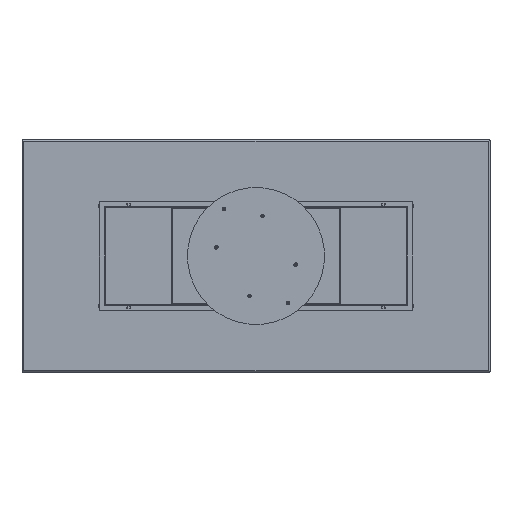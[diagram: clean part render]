
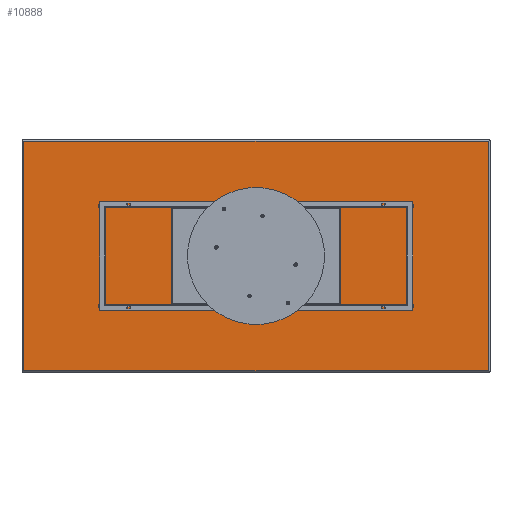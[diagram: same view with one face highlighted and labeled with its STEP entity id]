
A CAD part, front view. The second image highlights one B-rep face of the part: STEP entity #10888.
In plain terms, the highlighted planar face has unit normal (0, -1, 0).
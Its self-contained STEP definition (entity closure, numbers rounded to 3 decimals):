
#152 = VERTEX_POINT ( 'NONE', #15643 ) ;
#219 = CARTESIAN_POINT ( 'NONE',  ( 0., 0., 587. ) ) ;
#641 = CARTESIAN_POINT ( 'NONE',  ( 1187., 0., 0. ) ) ;
#890 = VECTOR ( 'NONE', #15709, 1000. ) ;
#1368 = FACE_OUTER_BOUND ( 'NONE', #14971, .T. ) ;
#2653 = LINE ( 'NONE', #641, #890 ) ;
#3420 = ORIENTED_EDGE ( 'NONE', *, *, #15647, .T. ) ;
#3804 = VECTOR ( 'NONE', #6762, 1000. ) ;
#4025 = DIRECTION ( 'NONE',  ( 0., 0., -1. ) ) ;
#4277 = VECTOR ( 'NONE', #19281, 1000. ) ;
#4541 = AXIS2_PLACEMENT_3D ( 'NONE', #13008, #19550, #6413 ) ;
#6149 = LINE ( 'NONE', #18767, #16858 ) ;
#6296 = PLANE ( 'NONE',  #4541 ) ;
#6413 = DIRECTION ( 'NONE',  ( 0., 0., 1. ) ) ;
#6762 = DIRECTION ( 'NONE',  ( -1., 0., 0. ) ) ;
#7121 = EDGE_CURVE ( 'NONE', #11334, #10711, #6149, .T. ) ;
#7661 = LINE ( 'NONE', #17484, #4277 ) ;
#7749 = EDGE_CURVE ( 'NONE', #11233, #11334, #8495, .T. ) ;
#8495 = LINE ( 'NONE', #219, #3804 ) ;
#10711 = VERTEX_POINT ( 'NONE', #10742 ) ;
#10742 = CARTESIAN_POINT ( 'NONE',  ( -1187., 0., -587. ) ) ;
#10888 = ADVANCED_FACE ( 'NONE', ( #1368 ), #6296, .F. ) ;
#10920 = CARTESIAN_POINT ( 'NONE',  ( 1187., 0., 587. ) ) ;
#11233 = VERTEX_POINT ( 'NONE', #10920 ) ;
#11334 = VERTEX_POINT ( 'NONE', #19383 ) ;
#11712 = ORIENTED_EDGE ( 'NONE', *, *, #7749, .T. ) ;
#12024 = ORIENTED_EDGE ( 'NONE', *, *, #16346, .T. ) ;
#13008 = CARTESIAN_POINT ( 'NONE',  ( 0., 0., 0. ) ) ;
#14884 = ORIENTED_EDGE ( 'NONE', *, *, #7121, .T. ) ;
#14971 = EDGE_LOOP ( 'NONE', ( #12024, #11712, #14884, #3420 ) ) ;
#15643 = CARTESIAN_POINT ( 'NONE',  ( 1187., 0., -587. ) ) ;
#15647 = EDGE_CURVE ( 'NONE', #10711, #152, #7661, .T. ) ;
#15709 = DIRECTION ( 'NONE',  ( 0., 0., 1. ) ) ;
#16346 = EDGE_CURVE ( 'NONE', #152, #11233, #2653, .T. ) ;
#16858 = VECTOR ( 'NONE', #4025, 1000. ) ;
#17484 = CARTESIAN_POINT ( 'NONE',  ( 0., 0., -587. ) ) ;
#18767 = CARTESIAN_POINT ( 'NONE',  ( -1187., 0., 0. ) ) ;
#19281 = DIRECTION ( 'NONE',  ( 1., 0., 0. ) ) ;
#19383 = CARTESIAN_POINT ( 'NONE',  ( -1187., 0., 587. ) ) ;
#19550 = DIRECTION ( 'NONE',  ( 0., 1., 0. ) ) ;
